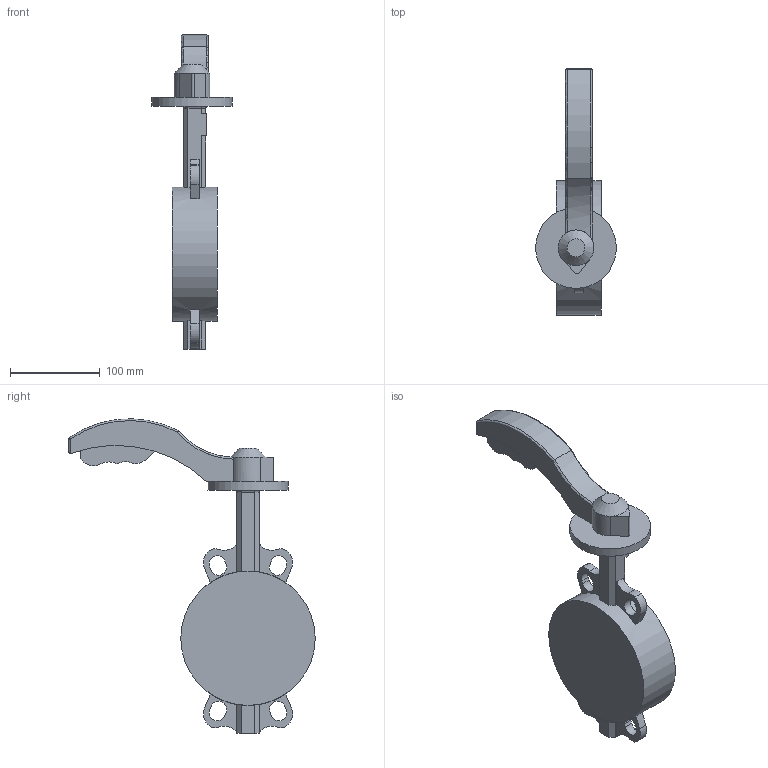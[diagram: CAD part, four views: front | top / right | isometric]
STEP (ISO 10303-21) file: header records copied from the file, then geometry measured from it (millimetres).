
FILE_DESCRIPTION(/* description */ (''),/* implementation_level */ '2;1');
FILE_NAME(/* name */ 'DN100.stp',/* time_stamp */ '2026-06-17T15:29:00+08:00',/* author */ (''),/* organization */ (''),/* preprocessor_version */ 'ST-DEVELOPER v16.7',/* originating_system */ 'SIEMENS PLM Software NX 12.0',/* authorisation */ '');
FILE_SCHEMA (('AUTOMOTIVE_DESIGN { 1 0 10303 214 3 1 1 1 }'));
Length unit declared in the file: millimetre
Products named in the file (1): DN100
Bounding box: 89.66 x 275 x 350.91 mm (x, y, z)
Volume: 1282436.6 mm3; surface area: 128692.8 mm2
Topology: 3 solids, 3 shells, 113 faces, 297 edges, 192 vertices
Faces by surface type: plane 61, cylinder 45, torus 4, sphere 2, cone 1
Full cylindrical faces by diameter (mm): 90 x1, 150 x1
Entity records: 3557 total; most frequent: CARTESIAN_POINT 659, DIRECTION 623, ORIENTED_EDGE 580, EDGE_CURVE 290, AXIS2_PLACEMENT_3D 225, VERTEX_POINT 189, LINE 173, VECTOR 173
